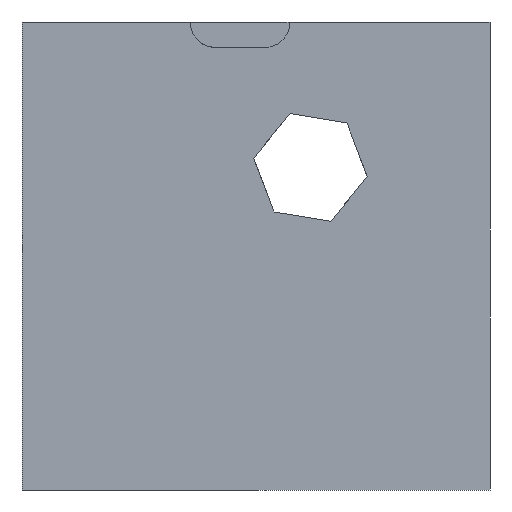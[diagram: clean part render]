
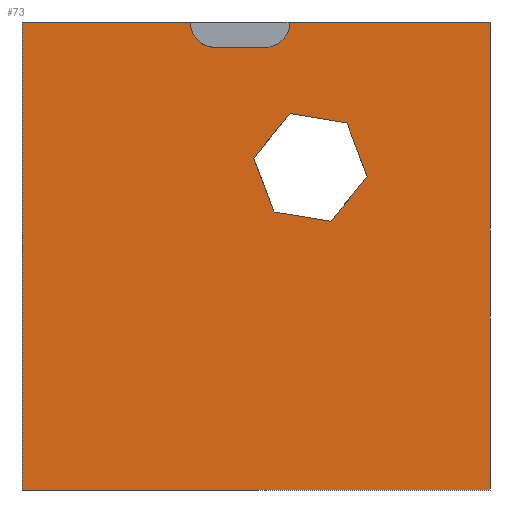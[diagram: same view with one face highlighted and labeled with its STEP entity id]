
A CAD part, left-side view. The second image highlights one B-rep face of the part: STEP entity #73.
In plain terms, the highlighted planar face has unit normal (-1, 0, 0).
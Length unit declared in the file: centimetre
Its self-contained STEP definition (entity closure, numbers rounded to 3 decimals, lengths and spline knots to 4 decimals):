
#3 = EDGE_CURVE ( 'NONE', #1101, #1052, #691, .T. ) ;
#7 = DIRECTION ( 'NONE',  ( 0., -1., 0. ) ) ;
#10 = EDGE_CURVE ( 'NONE', #880, #66, #517, .T. ) ;
#12 = ORIENTED_EDGE ( 'NONE', *, *, #530, .T. ) ;
#41 = AXIS2_PLACEMENT_3D ( 'NONE', #602, #1072, #72 ) ;
#59 = VERTEX_POINT ( 'NONE', #238 ) ;
#66 = VERTEX_POINT ( 'NONE', #580 ) ;
#71 = ORIENTED_EDGE ( 'NONE', *, *, #687, .T. ) ;
#72 = DIRECTION ( 'NONE',  ( 0., 0., -1. ) ) ;
#73 = ADVANCED_FACE ( 'NONE', ( #840, #1026 ), #945, .F. ) ;
#74 = DIRECTION ( 'NONE',  ( 0., 0., -1. ) ) ;
#76 = DIRECTION ( 'NONE',  ( 0., 0., -1. ) ) ;
#117 = CARTESIAN_POINT ( 'NONE',  ( 0., 0., 0. ) ) ;
#128 = ORIENTED_EDGE ( 'NONE', *, *, #245, .T. ) ;
#136 = AXIS2_PLACEMENT_3D ( 'NONE', #712, #807, #624 ) ;
#138 = DIRECTION ( 'NONE',  ( 1., 0., 0. ) ) ;
#145 = CARTESIAN_POINT ( 'NONE',  ( 0., 1000., 1000. ) ) ;
#152 = ORIENTED_EDGE ( 'NONE', *, *, #567, .T. ) ;
#161 = CARTESIAN_POINT ( 'NONE',  ( 0., 481.6772, 945.6148 ) ) ;
#178 = CARTESIAN_POINT ( 'NONE',  ( 0., 461.5066, 593.9991 ) ) ;
#187 = VERTEX_POINT ( 'NONE', #354 ) ;
#193 = EDGE_CURVE ( 'NONE', #1052, #786, #427, .T. ) ;
#194 = CARTESIAN_POINT ( 'NONE',  ( 0., 1000., 1000. ) ) ;
#201 = EDGE_CURVE ( 'NONE', #66, #322, #802, .T. ) ;
#230 = VECTOR ( 'NONE', #720, 100. ) ;
#238 = CARTESIAN_POINT ( 'NONE',  ( 0., 305.7776, 784.4904 ) ) ;
#245 = EDGE_CURVE ( 'NONE', #59, #1108, #626, .T. ) ;
#265 = VECTOR ( 'NONE', #74, 100. ) ;
#272 = EDGE_CURVE ( 'NONE', #786, #925, #1093, .T. ) ;
#282 = CARTESIAN_POINT ( 'NONE',  ( 0., 427.2921, 1000. ) ) ;
#283 = CARTESIAN_POINT ( 'NONE',  ( 0., 586.5197, 945.6148 ) ) ;
#298 = VECTOR ( 'NONE', #805, 100. ) ;
#301 = DIRECTION ( 'NONE',  ( 0., 0.987, 0.161 ) ) ;
#310 = VERTEX_POINT ( 'NONE', #461 ) ;
#322 = VERTEX_POINT ( 'NONE', #117 ) ;
#339 = VECTOR ( 'NONE', #301, 100. ) ;
#340 = ORIENTED_EDGE ( 'NONE', *, *, #923, .T. ) ;
#354 = CARTESIAN_POINT ( 'NONE',  ( 0., 640.9048, 1000. ) ) ;
#379 = ORIENTED_EDGE ( 'NONE', *, *, #710, .T. ) ;
#396 = ORIENTED_EDGE ( 'NONE', *, *, #201, .T. ) ;
#417 = LINE ( 'NONE', #1113, #339 ) ;
#420 = DIRECTION ( 'NONE',  ( 0., -0.987, -0.161 ) ) ;
#427 = CIRCLE ( 'NONE', #136, 54.3852 ) ;
#434 = CARTESIAN_POINT ( 'NONE',  ( 0., 1000., 1000. ) ) ;
#452 = DIRECTION ( 'NONE',  ( 0., 0.633, -0.774 ) ) ;
#461 = CARTESIAN_POINT ( 'NONE',  ( 0., 461.5066, 593.9991 ) ) ;
#487 = VECTOR ( 'NONE', #76, 100. ) ;
#517 = LINE ( 'NONE', #882, #487 ) ;
#522 = DIRECTION ( 'NONE',  ( 0., -0.633, 0.774 ) ) ;
#524 = LINE ( 'NONE', #1151, #265 ) ;
#530 = EDGE_CURVE ( 'NONE', #1011, #596, #686, .T. ) ;
#531 = LINE ( 'NONE', #434, #298 ) ;
#541 = EDGE_CURVE ( 'NONE', #187, #1101, #944, .T. ) ;
#549 = DIRECTION ( 'NONE',  ( 0., -1., 0. ) ) ;
#551 = ORIENTED_EDGE ( 'NONE', *, *, #272, .F. ) ;
#559 = ORIENTED_EDGE ( 'NONE', *, *, #193, .F. ) ;
#562 = VECTOR ( 'NONE', #549, 100. ) ;
#567 = EDGE_CURVE ( 'NONE', #596, #59, #705, .T. ) ;
#580 = CARTESIAN_POINT ( 'NONE',  ( 0., 1000., 0. ) ) ;
#596 = VERTEX_POINT ( 'NONE', #699 ) ;
#602 = CARTESIAN_POINT ( 'NONE',  ( 0., 586.5197, 1000. ) ) ;
#605 = CARTESIAN_POINT ( 'NONE',  ( 0., 0., 1000. ) ) ;
#606 = VECTOR ( 'NONE', #7, 100. ) ;
#608 = EDGE_LOOP ( 'NONE', ( #379, #340, #71, #12, #152, #128 ) ) ;
#624 = DIRECTION ( 'NONE',  ( 0., 0., -1. ) ) ;
#626 = LINE ( 'NONE', #815, #230 ) ;
#630 = VECTOR ( 'NONE', #420, 100. ) ;
#633 = AXIS2_PLACEMENT_3D ( 'NONE', #145, #138, #750 ) ;
#686 = LINE ( 'NONE', #865, #823 ) ;
#687 = EDGE_CURVE ( 'NONE', #310, #1011, #1162, .T. ) ;
#689 = EDGE_CURVE ( 'NONE', #880, #187, #531, .T. ) ;
#690 = ORIENTED_EDGE ( 'NONE', *, *, #3, .F. ) ;
#691 = LINE ( 'NONE', #161, #889 ) ;
#698 = DIRECTION ( 'NONE',  ( 0., -1., 0. ) ) ;
#699 = CARTESIAN_POINT ( 'NONE',  ( 0., 427.195, 804.3002 ) ) ;
#705 = LINE ( 'NONE', #707, #630 ) ;
#707 = CARTESIAN_POINT ( 'NONE',  ( 0., 427.195, 804.3002 ) ) ;
#710 = EDGE_CURVE ( 'NONE', #1108, #1070, #1096, .T. ) ;
#712 = CARTESIAN_POINT ( 'NONE',  ( 0., 481.6772, 1000. ) ) ;
#713 = CARTESIAN_POINT ( 'NONE',  ( 0., 505.0595, 709.0546 ) ) ;
#717 = CARTESIAN_POINT ( 'NONE',  ( 0., 1000., 0. ) ) ;
#720 = DIRECTION ( 'NONE',  ( 0., -0.354, -0.935 ) ) ;
#750 = DIRECTION ( 'NONE',  ( 0., 0., -1. ) ) ;
#786 = VERTEX_POINT ( 'NONE', #282 ) ;
#800 = DIRECTION ( 'NONE',  ( 0., 0.354, 0.935 ) ) ;
#802 = LINE ( 'NONE', #717, #606 ) ;
#805 = DIRECTION ( 'NONE',  ( 0., -1., 0. ) ) ;
#806 = VECTOR ( 'NONE', #800, 100. ) ;
#807 = DIRECTION ( 'NONE',  ( -1., 0., 0. ) ) ;
#812 = CARTESIAN_POINT ( 'NONE',  ( 0., 262.2247, 669.4349 ) ) ;
#815 = CARTESIAN_POINT ( 'NONE',  ( 0., 305.7776, 784.4904 ) ) ;
#823 = VECTOR ( 'NONE', #522, 100. ) ;
#840 = FACE_BOUND ( 'NONE', #608, .T. ) ;
#865 = CARTESIAN_POINT ( 'NONE',  ( 0., 505.0595, 709.0546 ) ) ;
#880 = VERTEX_POINT ( 'NONE', #1134 ) ;
#882 = CARTESIAN_POINT ( 'NONE',  ( 0., 1000., 1000. ) ) ;
#889 = VECTOR ( 'NONE', #698, 100. ) ;
#907 = EDGE_LOOP ( 'NONE', ( #551, #559, #690, #976, #1050, #977, #396, #1019 ) ) ;
#923 = EDGE_CURVE ( 'NONE', #1070, #310, #417, .T. ) ;
#925 = VERTEX_POINT ( 'NONE', #605 ) ;
#926 = CARTESIAN_POINT ( 'NONE',  ( 0., 262.2247, 669.4349 ) ) ;
#944 = CIRCLE ( 'NONE', #41, 54.3852 ) ;
#945 = PLANE ( 'NONE',  #633 ) ;
#976 = ORIENTED_EDGE ( 'NONE', *, *, #541, .F. ) ;
#977 = ORIENTED_EDGE ( 'NONE', *, *, #10, .T. ) ;
#1003 = EDGE_CURVE ( 'NONE', #925, #322, #524, .T. ) ;
#1011 = VERTEX_POINT ( 'NONE', #713 ) ;
#1019 = ORIENTED_EDGE ( 'NONE', *, *, #1003, .F. ) ;
#1026 = FACE_OUTER_BOUND ( 'NONE', #907, .T. ) ;
#1050 = ORIENTED_EDGE ( 'NONE', *, *, #689, .F. ) ;
#1052 = VERTEX_POINT ( 'NONE', #1160 ) ;
#1070 = VERTEX_POINT ( 'NONE', #1077 ) ;
#1072 = DIRECTION ( 'NONE',  ( -1., 0., 0. ) ) ;
#1077 = CARTESIAN_POINT ( 'NONE',  ( 0., 340.0892, 574.1893 ) ) ;
#1093 = LINE ( 'NONE', #194, #562 ) ;
#1096 = LINE ( 'NONE', #812, #1112 ) ;
#1101 = VERTEX_POINT ( 'NONE', #283 ) ;
#1108 = VERTEX_POINT ( 'NONE', #926 ) ;
#1112 = VECTOR ( 'NONE', #452, 100. ) ;
#1113 = CARTESIAN_POINT ( 'NONE',  ( 0., 340.0892, 574.1893 ) ) ;
#1134 = CARTESIAN_POINT ( 'NONE',  ( 0., 1000., 1000. ) ) ;
#1151 = CARTESIAN_POINT ( 'NONE',  ( 0., 0., 1000. ) ) ;
#1160 = CARTESIAN_POINT ( 'NONE',  ( 0., 481.6772, 945.6148 ) ) ;
#1162 = LINE ( 'NONE', #178, #806 ) ;
